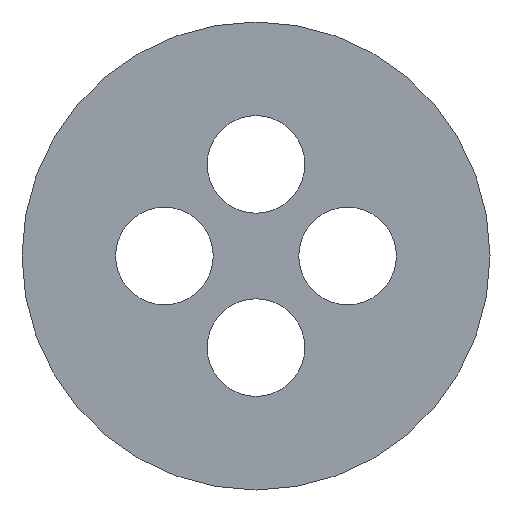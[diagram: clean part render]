
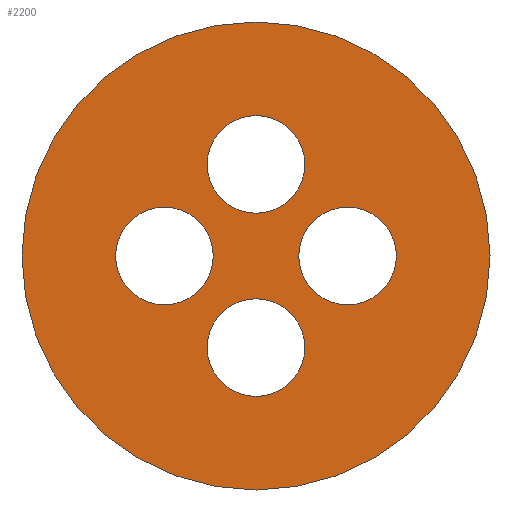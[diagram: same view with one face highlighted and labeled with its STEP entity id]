
A CAD part, left-side view. The second image highlights one B-rep face of the part: STEP entity #2200.
In plain terms, the highlighted planar face has unit normal (-1, 0, 0) as drawn and (0, 0, -1) by its records, which use the part's own axes.
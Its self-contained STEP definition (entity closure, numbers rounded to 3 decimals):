
#1400=CARTESIAN_POINT('',(0.,0.,0.));
#1410=DIRECTION('',(0.,0.,1.));
#1420=DIRECTION('',(1.,0.,0.));
#1430=AXIS2_PLACEMENT_3D('',#1400,#1410,#1420);
#1440=PLANE('',#1430);
#1450=CARTESIAN_POINT('',(25.06,70.41,0.));
#1460=DIRECTION('',(0.,0.,1.));
#1470=DIRECTION('',(1.,0.,0.));
#1480=AXIS2_PLACEMENT_3D('',#1450,#1460,#1470);
#1490=CIRCLE('',#1480,1.2);
#1500=CARTESIAN_POINT('',(26.26,70.41,0.));
#1510=VERTEX_POINT('',#1500);
#1520=CARTESIAN_POINT('',(23.86,70.41,0.));
#1530=VERTEX_POINT('',#1520);
#1540=EDGE_CURVE('',#1510,#1530,#1490,.T.);
#1550=ORIENTED_EDGE('',*,*,#1540,.T.);
#1560=EDGE_CURVE('',#1530,#1510,#1490,.T.);
#1570=ORIENTED_EDGE('',*,*,#1560,.T.);
#1580=EDGE_LOOP('',(#1570,#1550));
#1590=FACE_BOUND('',#1580,.T.);
#1600=CARTESIAN_POINT('',(22.81,68.16,0.));
#1610=DIRECTION('',(0.,0.,1.));
#1620=DIRECTION('',(1.,0.,0.));
#1630=AXIS2_PLACEMENT_3D('',#1600,#1610,#1620);
#1640=CIRCLE('',#1630,1.2);
#1650=CARTESIAN_POINT('',(24.01,68.16,0.));
#1660=VERTEX_POINT('',#1650);
#1670=CARTESIAN_POINT('',(21.61,68.16,0.));
#1680=VERTEX_POINT('',#1670);
#1690=EDGE_CURVE('',#1660,#1680,#1640,.T.);
#1700=ORIENTED_EDGE('',*,*,#1690,.T.);
#1710=EDGE_CURVE('',#1680,#1660,#1640,.T.);
#1720=ORIENTED_EDGE('',*,*,#1710,.T.);
#1730=EDGE_LOOP('',(#1720,#1700));
#1740=FACE_BOUND('',#1730,.T.);
#1750=CARTESIAN_POINT('',(25.06,65.91,0.));
#1760=DIRECTION('',(0.,0.,1.));
#1770=DIRECTION('',(1.,0.,0.));
#1780=AXIS2_PLACEMENT_3D('',#1750,#1760,#1770);
#1790=CIRCLE('',#1780,1.2);
#1800=CARTESIAN_POINT('',(26.26,65.91,0.));
#1810=VERTEX_POINT('',#1800);
#1820=CARTESIAN_POINT('',(23.86,65.91,0.));
#1830=VERTEX_POINT('',#1820);
#1840=EDGE_CURVE('',#1810,#1830,#1790,.T.);
#1850=ORIENTED_EDGE('',*,*,#1840,.T.);
#1860=EDGE_CURVE('',#1830,#1810,#1790,.T.);
#1870=ORIENTED_EDGE('',*,*,#1860,.T.);
#1880=EDGE_LOOP('',(#1870,#1850));
#1890=FACE_BOUND('',#1880,.T.);
#1900=CARTESIAN_POINT('',(27.31,68.16,0.));
#1910=DIRECTION('',(0.,0.,1.));
#1920=DIRECTION('',(1.,0.,0.));
#1930=AXIS2_PLACEMENT_3D('',#1900,#1910,#1920);
#1940=CIRCLE('',#1930,1.2);
#1950=CARTESIAN_POINT('',(28.51,68.16,0.));
#1960=VERTEX_POINT('',#1950);
#1970=CARTESIAN_POINT('',(26.11,68.16,0.));
#1980=VERTEX_POINT('',#1970);
#1990=EDGE_CURVE('',#1960,#1980,#1940,.T.);
#2000=ORIENTED_EDGE('',*,*,#1990,.T.);
#2010=EDGE_CURVE('',#1980,#1960,#1940,.T.);
#2020=ORIENTED_EDGE('',*,*,#2010,.T.);
#2030=EDGE_LOOP('',(#2020,#2000));
#2040=FACE_BOUND('',#2030,.T.);
#2050=CARTESIAN_POINT('',(25.06,68.16,0.));
#2060=DIRECTION('',(0.,0.,1.));
#2070=DIRECTION('',(1.,0.,0.));
#2080=AXIS2_PLACEMENT_3D('',#2050,#2060,#2070);
#2090=CIRCLE('',#2080,5.75);
#2100=CARTESIAN_POINT('',(30.81,68.16,0.));
#2110=VERTEX_POINT('',#2100);
#2120=CARTESIAN_POINT('',(19.31,68.16,0.));
#2130=VERTEX_POINT('',#2120);
#2140=EDGE_CURVE('',#2110,#2130,#2090,.T.);
#2150=ORIENTED_EDGE('',*,*,#2140,.F.);
#2160=EDGE_CURVE('',#2130,#2110,#2090,.T.);
#2170=ORIENTED_EDGE('',*,*,#2160,.F.);
#2180=EDGE_LOOP('',(#2170,#2150));
#2190=FACE_OUTER_BOUND('',#2180,.T.);
#2200=ADVANCED_FACE('',(#1590,#1740,#1890,#2040,#2190),#1440,.F.);
